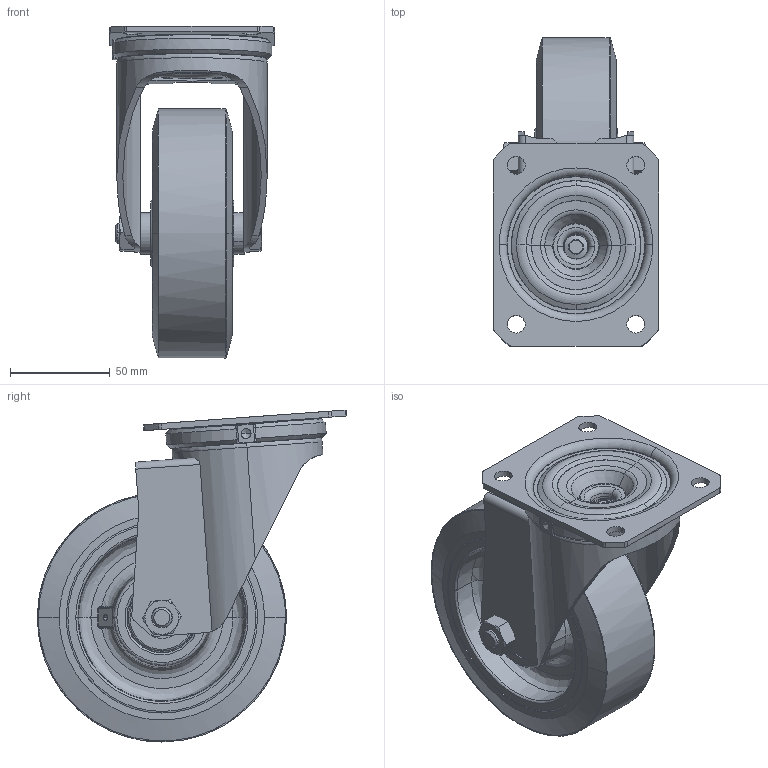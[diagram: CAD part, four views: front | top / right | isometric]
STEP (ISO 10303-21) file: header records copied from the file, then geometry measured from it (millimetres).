
FILE_DESCRIPTION (( 'STEP AP203' ), '1' );
FILE_NAME ('401514_.step', '2015-09-14T06:47:41', ( 'admin' ), ( 'Hewlett-Packard Company' ), 'SwSTEP 2.0', 'SolidWorks 2014', '' );
FILE_SCHEMA (( 'CONFIG_CONTROL_DESIGN' ));
Length unit declared in the file: millimetre
Products named in the file (1): 401514_
Bounding box: 83 x 155.22 x 166.64 mm (x, y, z)
Surface area: 134994.4 mm2 (no closed solid volume)
Topology: 0 solids, 13 shells, 532 faces, 1350 edges, 839 vertices
Faces by surface type: plane 217, bspline 122, cylinder 105, cone 52, torus 35, sphere 1
Entity records: 35776 total; most frequent: CARTESIAN_POINT 24062, ORIENTED_EDGE 2520, DIRECTION 2079, EDGE_CURVE 1337, VERTEX_POINT 837, AXIS2_PLACEMENT_3D 764, EDGE_LOOP 582, LINE 551
